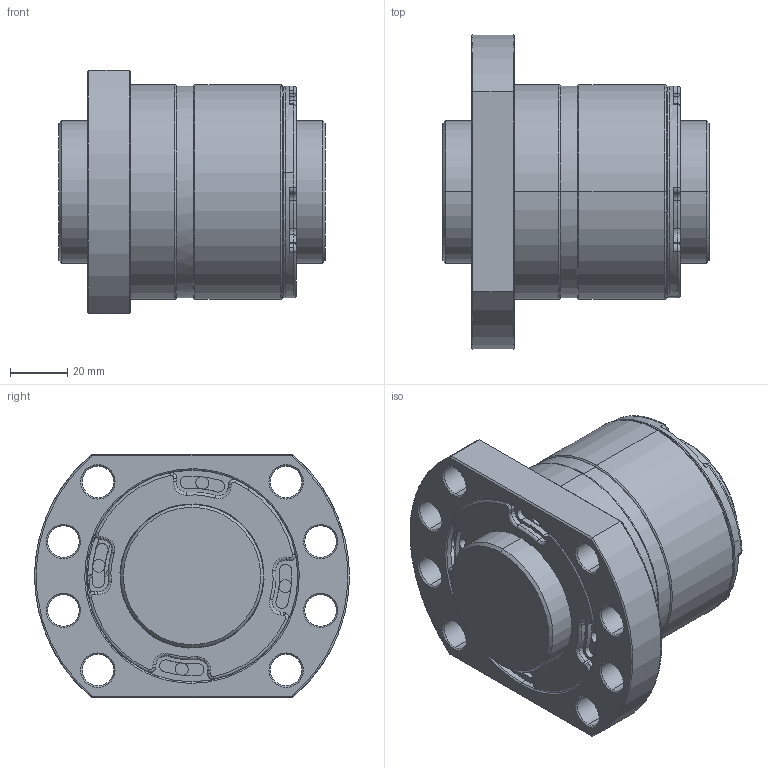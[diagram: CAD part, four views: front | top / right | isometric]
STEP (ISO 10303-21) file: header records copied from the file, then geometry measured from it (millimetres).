
FILE_DESCRIPTION (( 'STEP AP203' ), '1' );
FILE_NAME ('DFSR05005C1D-C.STEP', '2020-06-17T02:43:44', ( '' ), ( '' ), 'SwSTEP 2.0', 'SolidWorks 2013', '' );
FILE_SCHEMA (( 'CONFIG_CONTROL_DESIGN' ));
Length unit declared in the file: millimetre
Products named in the file (1): DFSR05005C1D-C
Bounding box: 93 x 109.87 x 85 mm (x, y, z)
Volume: 392932.5 mm3; surface area: 67866.7 mm2
Topology: 2 solids, 2 shells, 377 faces, 915 edges, 558 vertices
Faces by surface type: cylinder 175, plane 85, bspline 76, cone 41
Entity records: 15081 total; most frequent: CARTESIAN_POINT 6241, DIRECTION 1946, ORIENTED_EDGE 1830, EDGE_CURVE 915, AXIS2_PLACEMENT_3D 833, VERTEX_POINT 558, CIRCLE 531, EDGE_LOOP 415
